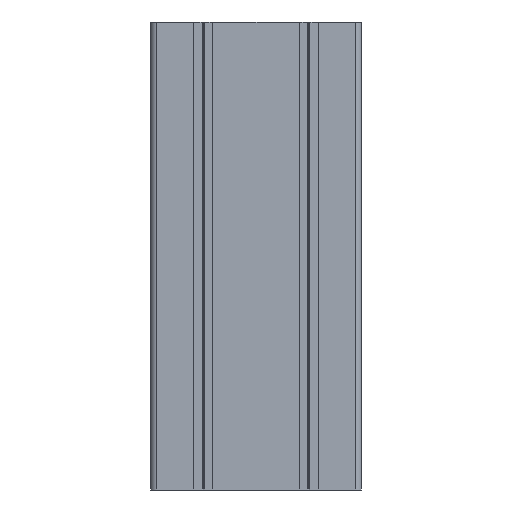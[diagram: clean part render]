
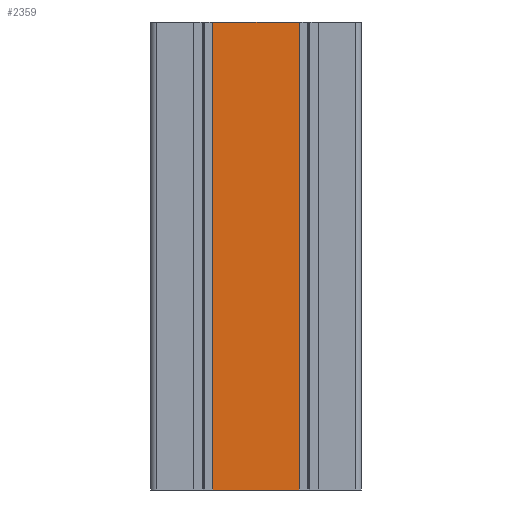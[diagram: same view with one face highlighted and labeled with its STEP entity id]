
A CAD part, front view. The second image highlights one B-rep face of the part: STEP entity #2359.
In plain terms, the highlighted planar face has unit normal (0, -1, 0).
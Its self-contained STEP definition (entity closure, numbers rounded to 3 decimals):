
#462 = VERTEX_POINT ( 'NONE', #2413 ) ;
#824 = EDGE_CURVE ( 'NONE', #6611, #462, #6764, .T. ) ;
#1139 = AXIS2_PLACEMENT_3D ( 'NONE', #8330, #8260, #8249 ) ;
#1221 = DIRECTION ( 'NONE',  ( 1., 0., 0. ) ) ;
#1269 = CARTESIAN_POINT ( 'NONE',  ( -18.478, -44.872, 200. ) ) ;
#2359 = ADVANCED_FACE ( 'NONE', ( #6312 ), #8429, .F. ) ;
#2413 = CARTESIAN_POINT ( 'NONE',  ( 18.322, -44.872, 0. ) ) ;
#2416 = CARTESIAN_POINT ( 'NONE',  ( -18.478, -44.872, 0. ) ) ;
#2544 = CARTESIAN_POINT ( 'NONE',  ( -18.478, -44.872, 200. ) ) ;
#2556 = EDGE_LOOP ( 'NONE', ( #2731, #2804, #2840, #2859 ) ) ;
#2731 = ORIENTED_EDGE ( 'NONE', *, *, #3158, .T. ) ;
#2804 = ORIENTED_EDGE ( 'NONE', *, *, #824, .F. ) ;
#2840 = ORIENTED_EDGE ( 'NONE', *, *, #5560, .F. ) ;
#2859 = ORIENTED_EDGE ( 'NONE', *, *, #4183, .T. ) ;
#3158 = EDGE_CURVE ( 'NONE', #6339, #462, #3662, .T. ) ;
#3178 = VECTOR ( 'NONE', #4843, 1000. ) ;
#3446 = VECTOR ( 'NONE', #3953, 1000. ) ;
#3662 = LINE ( 'NONE', #5164, #3446 ) ;
#3953 = DIRECTION ( 'NONE',  ( 1., 0., 0. ) ) ;
#4183 = EDGE_CURVE ( 'NONE', #6920, #6339, #8518, .T. ) ;
#4491 = VECTOR ( 'NONE', #1221, 1000. ) ;
#4587 = LINE ( 'NONE', #1269, #4491 ) ;
#4843 = DIRECTION ( 'NONE',  ( 0., 0., -1. ) ) ;
#5164 = CARTESIAN_POINT ( 'NONE',  ( -18.478, -44.872, 0. ) ) ;
#5421 = DIRECTION ( 'NONE',  ( 0., 0., -1. ) ) ;
#5531 = CARTESIAN_POINT ( 'NONE',  ( -18.478, -44.872, 200. ) ) ;
#5560 = EDGE_CURVE ( 'NONE', #6920, #6611, #4587, .T. ) ;
#5587 = CARTESIAN_POINT ( 'NONE',  ( 18.322, -44.872, 200. ) ) ;
#6312 = FACE_OUTER_BOUND ( 'NONE', #2556, .T. ) ;
#6339 = VERTEX_POINT ( 'NONE', #2416 ) ;
#6611 = VERTEX_POINT ( 'NONE', #8025 ) ;
#6764 = LINE ( 'NONE', #5587, #3178 ) ;
#6920 = VERTEX_POINT ( 'NONE', #2544 ) ;
#8025 = CARTESIAN_POINT ( 'NONE',  ( 18.322, -44.872, 200. ) ) ;
#8249 = DIRECTION ( 'NONE',  ( 0., 0., 1. ) ) ;
#8260 = DIRECTION ( 'NONE',  ( 0., 1., 0. ) ) ;
#8330 = CARTESIAN_POINT ( 'NONE',  ( -18.478, -44.872, 200. ) ) ;
#8429 = PLANE ( 'NONE',  #1139 ) ;
#8502 = VECTOR ( 'NONE', #5421, 1000. ) ;
#8518 = LINE ( 'NONE', #5531, #8502 ) ;
